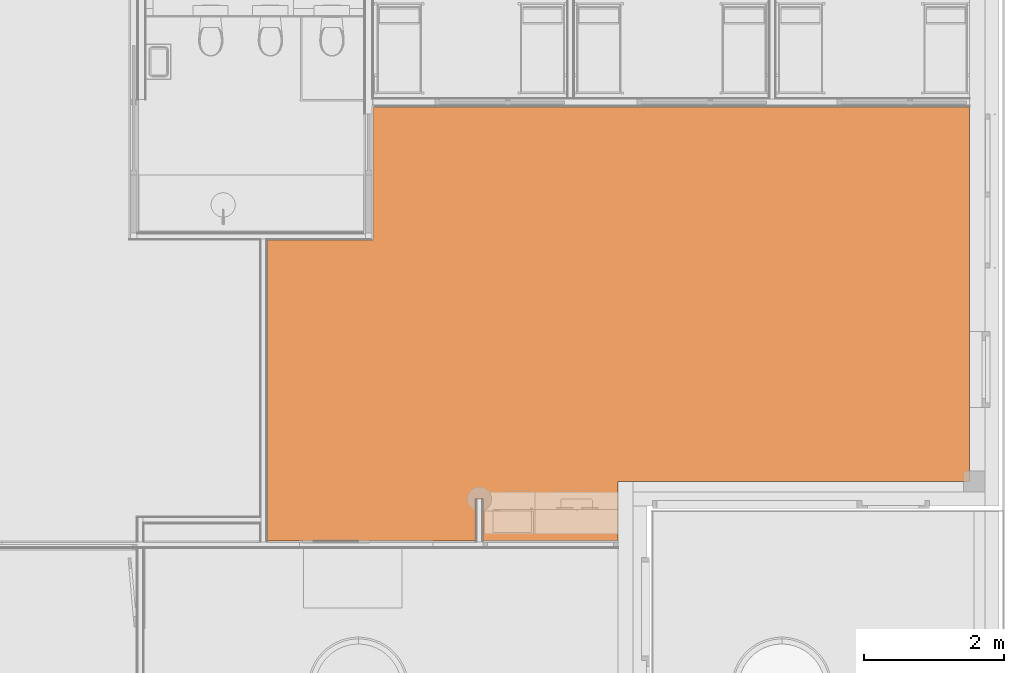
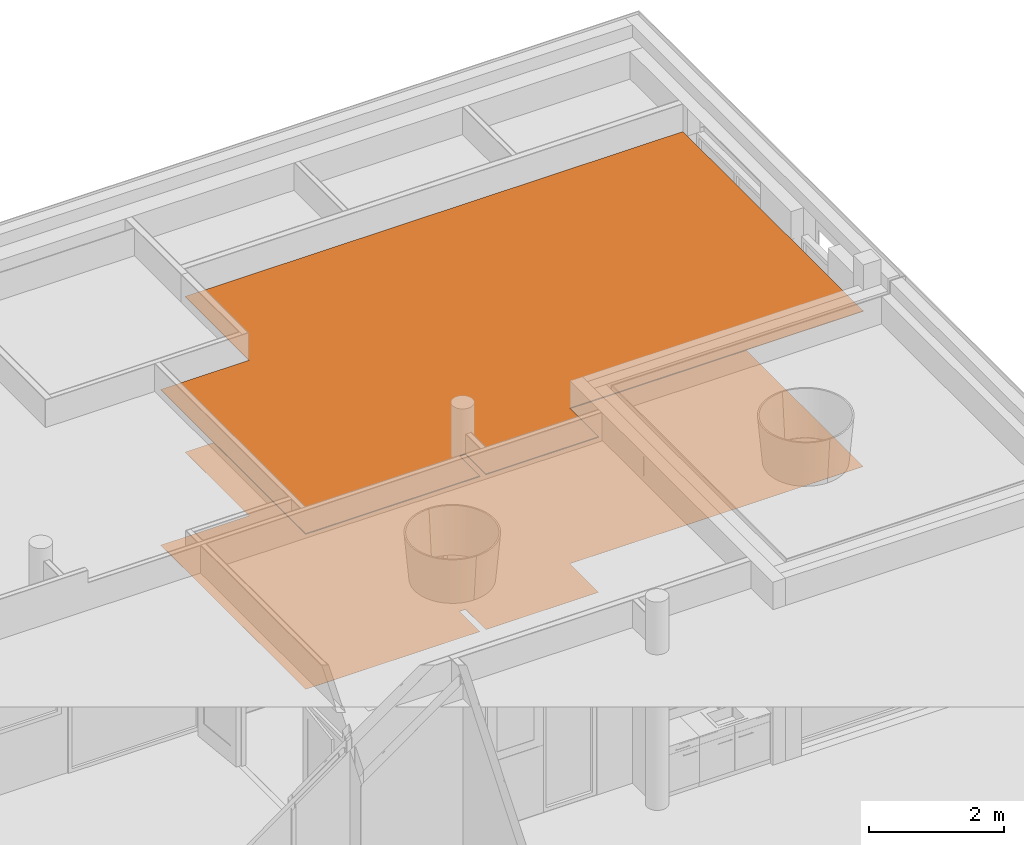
# One storey, part 160 of 167: 2 proxies.
"""IFC2X3 building model written with IfcOpenShell, lengths in millimetres."""

from ifc_helpers import new_model, entity, si_unit, converted_unit, derived_unit, money_unit, direction, frame, origin_with_axes, place, context, subcontext, project, spatial, faceted_brep, material, type_object, element, save


model = new_model("IFC2X3")

# Units and contexts
model_context = context("Model", 3, precision=0.01, world=origin_with_axes(), true_north=direction((0.0, 1.0)))
plan_context = context("Plan", 3, precision=0.01, world=origin_with_axes(), true_north=direction((0.0, 1.0)))
body_context = subcontext(model_context, "Body", "Model", "MODEL_VIEW")
ifc_project = project(units=[si_unit("LENGTHUNIT", "METRE", prefix="MILLI"), si_unit("AREAUNIT", "SQUARE_METRE"), si_unit("VOLUMEUNIT", "CUBIC_METRE"), converted_unit("PLANEANGLEUNIT", "DEGREE", entity("IfcPlaneAngleMeasure", 0.0174532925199), si_unit("PLANEANGLEUNIT", "RADIAN"), dimensions=[0, 0, 0, 0, 0, 0, 0]), si_unit("SOLIDANGLEUNIT", "STERADIAN"), money_unit("EUR"), converted_unit("TIMEUNIT", "Year", entity("IfcTimeMeasure", 31556926.0), si_unit("TIMEUNIT", "SECOND"), dimensions=[0, 0, 1, 0, 0, 0, 0]), si_unit("MASSUNIT", "GRAM", prefix="KILO"), si_unit("THERMODYNAMICTEMPERATUREUNIT", "DEGREE_CELSIUS"), si_unit("LUMINOUSINTENSITYUNIT", "LUMEN"), si_unit("ENERGYUNIT", "JOULE", prefix="MEGA"), derived_unit("THERMALCONDUCTANCEUNIT", [(si_unit("POWERUNIT", "WATT"), 1), (si_unit("LENGTHUNIT", "METRE"), -1), (si_unit("THERMODYNAMICTEMPERATUREUNIT", "KELVIN"), -1)]), derived_unit("SPECIFICHEATCAPACITYUNIT", [(si_unit("ENERGYUNIT", "JOULE"), 1), (si_unit("MASSUNIT", "GRAM", prefix="KILO"), -1), (si_unit("THERMODYNAMICTEMPERATUREUNIT", "KELVIN"), -1)]), derived_unit("MASSDENSITYUNIT", [(si_unit("MASSUNIT", "GRAM", prefix="KILO"), 1), (si_unit("VOLUMEUNIT", "CUBIC_METRE"), -1)])], contexts=[model_context, plan_context])

# Site, building, storey
site_placement = place(None, origin_with_axes())
site = spatial("IfcSite", under=ifc_project, at=site_placement, Name="Site", CompositionType="ELEMENT")
building_placement = place(site_placement, origin_with_axes())
building = spatial("IfcBuilding", under=site, at=building_placement, Name="Naam gebouw", CompositionType="ELEMENT")
storey_placement = place(building_placement, origin_with_axes())
storey = spatial("IfcBuildingStorey", under=building, at=storey_placement, Name="Begane grond", CompositionType="ELEMENT", Elevation=0.0)

# Proxies
ifc_material_1 = material(Name="ALG - BINNENAFWERKING")
building_element_proxy_type_1 = type_object("IfcBuildingElementProxyType", Name="ALG - BINNENAFWERKING 10", PredefinedType="NOTDEFINED")
proxy_1_placement = place(storey_placement, frame((32975.2894465, 46040.9999441, 2800.0), z_axis=(0.0, 0.0, 1.0), x_axis=(1.0, 0.0, 0.0)))
element("IfcBuildingElementProxy", 1, at=proxy_1_placement, inside=storey, type_object=building_element_proxy_type_1, material=ifc_material_1, Name="23__Vloer-x", context=body_context, shape_type="Brep", body=[
    faceted_brep([(10010.7105535, -3440.99994411, 10.0), (10010.7105535, -1304.17100444, 10.0), (10013.2369361, -1304.17100444, 10.0), (10013.2369361, -1302.75077591, 10.0), (10010.7105535, -1302.75077591, 10.0), (10010.7105535, 1896.50021338, 10.0), (1512.21048441, 1896.50021338, 10.0), (1512.21048441, 0.0, 10.0), (1499.71048441, 0.0, 10.0), (0.0, 0.0, 10.0), (0.979894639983, -0.00417812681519, 10.0), (0.373995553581, -4291.00148527, 10.0), (2974.71055349, -4290.99994411, 10.0), (2974.71055349, -3690.99994199, 10.0), (3074.71055349, -3690.99994199, 10.0), (3074.71055349, -4290.99994411, 10.0), (4999.71055349, -4290.99994411, 10.0), (4999.71055349, -3440.99994411, 10.0), (10010.7105535, -1304.17100444, -4.25865489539e-05), (10010.7105535, -3440.99994411, 0.0), (10010.7105535, -2386.69100444, -4.25865489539e-05), (10013.2369361, -1304.17100444, -4.25865489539e-05), (10013.2369361, -1302.75077591, -4.25865489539e-05), (10010.7105535, -1302.75077591, -4.25865489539e-05), (10010.7105535, -397.801004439, -4.25865489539e-05), (10010.7105535, 1762.11899556, -4.25865489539e-05), (10010.7105535, 1896.50021338, -3.86933995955e-06), (1512.21048441, 1896.50021338, 0.0), (1512.21048441, 0.0, 0.0), (1499.71048441, 0.0, 0.0), (0.0, 0.0, 0.0), (0.979894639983, -0.00417812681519, 0.0), (0.373995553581, -4291.00148527, 0.0), (2974.71055349, -4290.99994411, 0.0), (2974.71055349, -3690.99994199, 0.0), (3074.71055349, -3690.99994199, 0.0), (3074.71055349, -4290.99994411, 0.0), (4999.71055349, -4290.99994411, 0.0), (4999.71055349, -3440.99994411, 0.0)], [[[0, 1, 2, 3, 4, 5, 6, 7, 8, 9, 10, 11, 12, 13, 14, 15, 16, 17]], [[18, 1, 0, 19, 20]], [[18, 21, 2, 1]], [[3, 2, 21, 22]], [[3, 22, 23, 4]], [[4, 23, 24, 25, 26, 5]], [[26, 27, 6, 5]], [[28, 7, 6, 27]], [[28, 29, 8, 7]], [[30, 9, 8, 29]], [[10, 9, 30, 31]], [[11, 10, 31, 32]], [[12, 11, 32, 33]], [[13, 12, 33, 34]], [[34, 35, 14, 13]], [[36, 15, 14, 35]], [[16, 15, 36, 37]], [[16, 37, 38, 17]], [[0, 17, 38, 19]], [[21, 18, 20, 19, 38, 37, 36, 35, 34, 33, 32, 31, 30, 29, 28, 27, 26, 25, 24, 23, 22]]]),
])
ifc_material_2 = material(Name="_TenW_43_A2 Forbo Impressa")
building_element_proxy_type_2 = type_object("IfcBuildingElementProxyType", Name="_TenW_43_A2 Forbo Impressa 2", PredefinedType="NOTDEFINED")
proxy_2_placement = place(storey_placement, frame((34487.4997745, 46040.9998128, 0.0), z_axis=(0.0, 0.0, 1.0), x_axis=(1.0, 0.0, 0.0)))
element("IfcBuildingElementProxy", 2, at=proxy_2_placement, inside=storey, type_object=building_element_proxy_type_2, material=ifc_material_2, Name="23__Vloer-x", context=body_context, shape_type="Brep", body=[
    faceted_brep([(1462.50022548, -3690.99981073, 2.0), (1562.50022548, -3690.99981073, 2.0), (1562.50022548, -4290.99981285, 2.0), (3487.50029311, -4290.99986036, 2.0), (3487.50029311, -3439.31767239, 2.0), (3975.50012483, -3440.99981285, 2.0), (7926.94045652, -3440.99981285, 2.0), (7926.94045422, -3440.90360303, 2.0), (8498.50027968, -3439.31767239, 2.0), (8498.50027968, 1896.50028677, 2.0), (0.0, 1896.50056201, 2.0), (0.0, 0.0, 2.0), (-1512.21817225, 0.000275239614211, 2.0), (-1512.21624558, -4290.99986036, 2.0), (1462.50022548, -4290.99981285, 2.0), (1462.50022548, -3690.99981073, 0.0), (1562.50022548, -3690.99981073, 0.0), (1562.50022548, -4290.99981285, 0.0), (3487.50029311, -4290.99986036, 0.0), (3487.50029311, -3439.31767239, 0.0), (3975.50012483, -3440.99981285, 0.0), (7926.94045652, -3440.99981285, 0.0), (7926.94045422, -3440.90360303, 0.0), (8498.50027968, -3439.31767239, 0.0), (8498.50027968, 1896.50028677, 0.0), (0.0, 1896.50056201, 0.0), (0.0, 0.0, 0.0), (-1512.21817225, 0.000275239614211, 0.0), (-1512.21624558, -4290.99986036, 0.0), (1462.50022548, -4290.99981285, 0.0)], [[[0, 1, 2, 3, 4, 5, 6, 7, 8, 9, 10, 11, 12, 13, 14]], [[15, 16, 1, 0]], [[17, 2, 1, 16]], [[3, 2, 17, 18]], [[4, 3, 18, 19]], [[19, 20, 5, 4]], [[20, 21, 6, 5]], [[7, 6, 21, 22]], [[8, 7, 22, 23]], [[9, 8, 23, 24]], [[10, 9, 24, 25]], [[11, 10, 25, 26]], [[12, 11, 26, 27]], [[13, 12, 27, 28]], [[28, 29, 14, 13]], [[15, 0, 14, 29]], [[17, 16, 15, 29, 28, 27, 26, 25, 24, 23, 22, 21, 20, 19, 18]]]),
])

save(model, "model.ifc")
